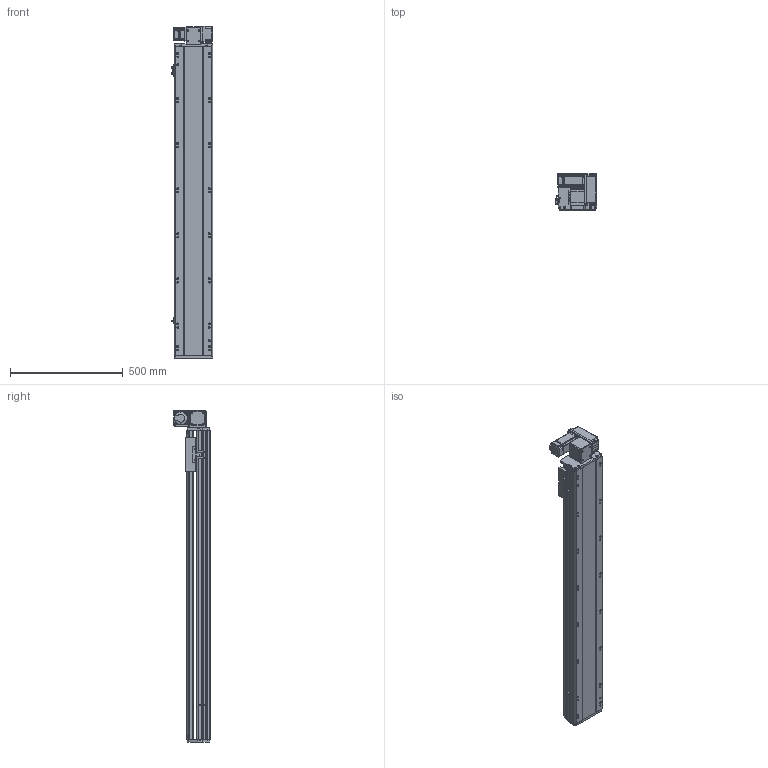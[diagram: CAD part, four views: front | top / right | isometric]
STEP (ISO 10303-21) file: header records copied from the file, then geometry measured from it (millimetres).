
FILE_DESCRIPTION (( 'STEP AP214' ), '1' );
FILE_NAME ('RTB17S-XX-1100-RW-M40-C4.STEP', '2025-12-11T08:55:56', ( '' ), ( '' ), 'SwSTEP 2.0', 'SolidWorks 2018', '' );
FILE_SCHEMA (( 'AUTOMOTIVE_DESIGN' ));
Length unit declared in the file: millimetre
Products named in the file (14): RTB17S-RW-々湍釱蚾饜-400W^RTB17S-XX-XX-RW-M40-C4; RTB17S-L-004佪裝蹟譫蟀諉釱^RTB17S-XX-XX-RW-M40-C4; RTB14-L-018P^RTB17S-RW-々湍釱蚾饜-400W_RTB17S-XX-XX-RW-M40-C4; RTH13-BL-012覜茼え俋离^RTB17S-XX-XX-RW-M40-C4; RTB14-L-017P^RTB17S-RW-々湍釱蚾饜-400W_RTB17S-XX-XX-RW-M40-C4; 400W侜督萇儂^RTB17S-XX-XX-RW-M40-C4; OMRON EE-SX672 传感器^RTB17S-XX-XX-RW-M40-C4; RMP17S-L-014-T20--々湍釱^RTB17S-RW-々湍釱蚾饜-400W_RTB17S-XX-XX-RW-M40-C4; RTB17S-L-001耜醱啣^RTB17S-XX-XX-RW-M40-C4; RTB14-L-008-M20--萇儂啣^RTB17S-RW-々湍釱蚾饜-400W_RTB17S-XX-XX-RW-M40-C4; RTB14-L-005P--轴承塑胶压盖^RTB17S-RW-皮带座装配-400W_RTB17S-XX-XX-RW-M40-C4; RTB17S-XX-1100-RW-M40-C4; RTB17-R-011菁釱^RTB17S-XX-XX-RW-M40-C4; RTB17S-L-007奻裔^RTB17S-XX-XX-RW-M40-C4
Assembly tree (16 placements, depth 3):
  RTB17S-XX-1100-RW-M40-C4
    RTB17-R-011菁釱^RTB17S-XX-XX-RW-M40-C4
    RTB17S-L-007奻裔^RTB17S-XX-XX-RW-M40-C4
    OMRON EE-SX672 传感器^RTB17S-XX-XX-RW-M40-C4  x3
    RTB17S-L-001耜醱啣^RTB17S-XX-XX-RW-M40-C4
    400W侜督萇儂^RTB17S-XX-XX-RW-M40-C4
    RTB17S-L-004佪裝蹟譫蟀諉釱^RTB17S-XX-XX-RW-M40-C4
    RTH13-BL-012覜茼え俋离^RTB17S-XX-XX-RW-M40-C4
    RTB17S-RW-々湍釱蚾饜-400W^RTB17S-XX-XX-RW-M40-C4
      RMP17S-L-014-T20--々湍釱^RTB17S-RW-々湍釱蚾饜-400W_RTB17S-XX-XX-RW-M40-C4
      RTB14-L-005P--轴承塑胶压盖^RTB17S-RW-皮带座装配-400W_RTB17S-XX-XX-RW-M40-C4
      RTB14-L-008-M20--萇儂啣^RTB17S-RW-々湍釱蚾饜-400W_RTB17S-XX-XX-RW-M40-C4
      RTB14-L-017P^RTB17S-RW-々湍釱蚾饜-400W_RTB17S-XX-XX-RW-M40-C4  x2
      RTB14-L-018P^RTB17S-RW-々湍釱蚾饜-400W_RTB17S-XX-XX-RW-M40-C4
Bounding box: 183.5 x 160.5 x 1472.5 mm (x, y, z)
Volume: 13187235.8 mm3; surface area: 1587893.3 mm2
Topology: 15 solids, 15 shells, 2221 faces, 6141 edges, 4005 vertices
Faces by surface type: plane 1070, cylinder 703, bspline 301, cone 139, torus 8
Entity records: 63401 total; most frequent: CARTESIAN_POINT 17746, ORIENTED_EDGE 9126, DIRECTION 8486, EDGE_CURVE 4563, VERTEX_POINT 2993, AXIS2_PLACEMENT_3D 2923, VECTOR 2640, LINE 2640
